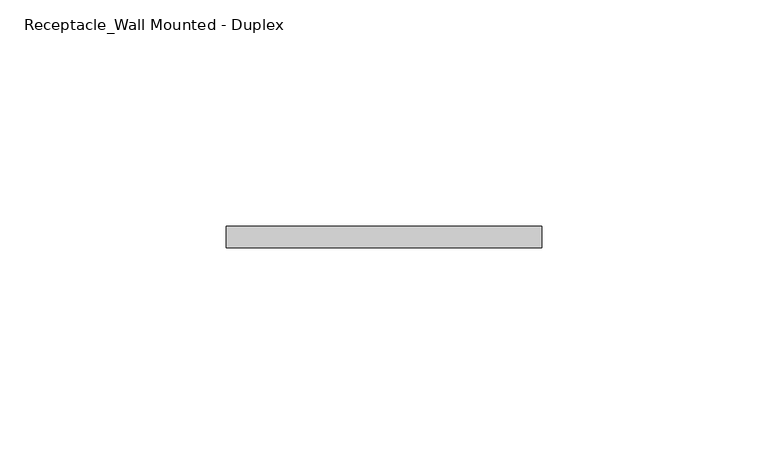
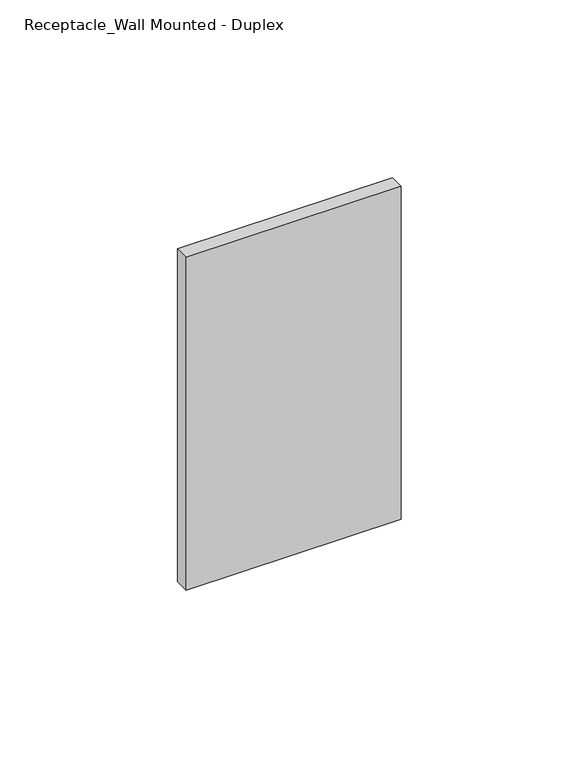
"""IFC4 building model written with IfcOpenShell, lengths in millimetres: proxy geometry, Receptacle_Wall Mounted - Duplex : Convenience."""

import ifcopenshell
import ifcopenshell.guid

model = None  # the IFC model being written
_history = None  # IfcOwnerHistory: only IFC2X3 demands one
_inside = {}  # id of a spatial element -> (the spatial element, [elements in it])
_under = {}  # id of a project, library or spatial element -> (it, [spatial elements below it])
_declared = {}  # id of a project -> (the project, [libraries it declares])
_typed = {}  # id of a type object -> (the type object, [elements of that type])
_made_of = {}  # id of a material, layer set ... -> (it, [elements and type objects made of it])


def new_model(schema):
    """Start an empty IFC model of exactly this schema.

    Asked for "IFC4X3", IfcOpenShell would pick the latest addendum, in which some entities
    have other attributes; the version numbers below select the first issue.
    IFC2X3 requires an IfcOwnerHistory on every rooted entity: one is made here for all.
    """
    global model, _history
    if schema == "IFC4X3":
        model = ifcopenshell.file(schema_version=(4, 3, 0, 0))
    else:
        model = ifcopenshell.file(schema=schema)
    _inside.clear()
    _under.clear()
    _declared.clear()
    _typed.clear()
    _made_of.clear()
    _history = None
    if model.schema == "IFC2X3":
        org = make("IfcOrganization", Name="unknown")
        user = make(
            "IfcPersonAndOrganization",
            ThePerson=make("IfcPerson", FamilyName="unknown"),
            TheOrganization=org,
        )
        app = make(
            "IfcApplication",
            ApplicationDeveloper=org,
            Version="unknown",
            ApplicationFullName="unknown",
            ApplicationIdentifier="unknown",
        )
        _history = make(
            "IfcOwnerHistory",
            OwningUser=user,
            OwningApplication=app,
            ChangeAction="ADDED",
            CreationDate=0,
        )
    return model


def make(cls, **values):
    """One entity of the class cls with the attributes given. An attribute that is None is left unset."""
    return model.create_entity(
        cls, **{name: value for name, value in values.items() if value is not None}
    )


def rooted(cls, **values):
    """An entity with a GlobalId (a new one), such as an element, a storey or a relation."""
    return make(cls, GlobalId=ifcopenshell.guid.new(), OwnerHistory=_history, **values)


def si_unit(unit_type, name, prefix=None):
    """IfcSIUnit, for example si_unit("LENGTHUNIT", "METRE", prefix="MILLI")."""
    return make("IfcSIUnit", UnitType=unit_type, Prefix=prefix, Name=name)


def assignment(units):
    """IfcUnitAssignment: the units of a project."""
    return None if units is None else make("IfcUnitAssignment", Units=units)


def point(xyz):
    """IfcCartesianPoint."""
    return None if xyz is None else make("IfcCartesianPoint", Coordinates=xyz)


def direction(xyz):
    """IfcDirection."""
    return None if xyz is None else make("IfcDirection", DirectionRatios=xyz)


def frame(location, z_axis=None, x_axis=None):
    """IfcAxis2Placement3D, a coordinate frame: its origin and axes. An axis left out is left unset."""
    return make(
        "IfcAxis2Placement3D",
        Location=point(location),
        Axis=direction(z_axis),
        RefDirection=direction(x_axis),
    )


def origin():
    """The frame at (0, 0, 0) with its axes left unset."""
    return frame((0.0, 0.0, 0.0))


def place(relative_to, where):
    """IfcLocalPlacement: puts the frame where relative to a parent placement (None: the world)."""
    return make(
        "IfcLocalPlacement", PlacementRelTo=relative_to, RelativePlacement=where
    )


def context(
    kind, dimensions, precision=None, world=None, true_north=None, identifier=None
):
    """IfcGeometricRepresentationContext, for example the 3D "Model" context."""
    return make(
        "IfcGeometricRepresentationContext",
        ContextIdentifier=identifier,
        ContextType=kind,
        CoordinateSpaceDimension=dimensions,
        Precision=precision,
        WorldCoordinateSystem=world,
        TrueNorth=true_north,
    )


def project(units=None, contexts=None):
    """IfcProject with its units and contexts."""
    return rooted(
        "IfcProject",
        Name="project",
        RepresentationContexts=contexts,
        UnitsInContext=assignment(units),
    )


def spatial(cls, under=None, at=None, **own):
    """A site, building, storey or space (cls), placed at a placement, below another one or the project."""
    s = rooted(cls, ObjectPlacement=at, **own)
    if under is not None:
        _under.setdefault(under.id(), (under, []))[1].append(s)
    return s


def polyline(points):
    """IfcPolyline through the points."""
    return make("IfcPolyline", Points=[point(p) for p in points])


def outline(outer, holes=None, kind="AREA"):
    """IfcArbitraryClosedProfileDef: a profile drawn as a closed curve; with holes, ...WithVoids."""
    if holes is None:
        return make("IfcArbitraryClosedProfileDef", ProfileType=kind, OuterCurve=outer)
    return make(
        "IfcArbitraryProfileDefWithVoids",
        ProfileType=kind,
        OuterCurve=outer,
        InnerCurves=holes,
    )


def extrude(swept, where, along, depth):
    """IfcExtrudedAreaSolid: the profile swept, set in the frame where, extruded along a direction by depth."""
    return make(
        "IfcExtrudedAreaSolid",
        SweptArea=swept,
        Position=where,
        ExtrudedDirection=direction(along),
        Depth=depth,
    )


def shape(context_of_items, identifier, shape_type, items):
    """IfcShapeRepresentation: the items that make up one representation, for example the "Body"."""
    return make(
        "IfcShapeRepresentation",
        ContextOfItems=context_of_items,
        RepresentationIdentifier=identifier,
        RepresentationType=shape_type,
        Items=items,
    )


def source(mapping_origin, context_of_items, identifier, shape_type, items):
    """IfcRepresentationMap: a shape defined once, which mapped items show again and again."""
    return make(
        "IfcRepresentationMap",
        MappingOrigin=mapping_origin,
        MappedRepresentation=shape(context_of_items, identifier, shape_type, items),
    )


def transform(
    local_origin,
    x_axis=None,
    y_axis=None,
    z_axis=None,
    scale=None,
    scale2=None,
    scale3=None,
    uniform=True,
):
    """IfcCartesianTransformationOperator3D, or its non-uniform kind. x_axis, y_axis, z_axis: its Axis1, 2, 3."""
    if uniform:
        return make(
            "IfcCartesianTransformationOperator3D",
            Axis1=direction(x_axis),
            Axis2=direction(y_axis),
            LocalOrigin=point(local_origin),
            Scale=scale,
            Axis3=direction(z_axis),
        )
    return make(
        "IfcCartesianTransformationOperator3DnonUniform",
        Axis1=direction(x_axis),
        Axis2=direction(y_axis),
        LocalOrigin=point(local_origin),
        Scale=scale,
        Axis3=direction(z_axis),
        Scale2=scale2,
        Scale3=scale3,
    )


def mapped(mapping_source, mapping_target):
    """IfcMappedItem: shows the shape of a source again, moved by a transform."""
    return make(
        "IfcMappedItem", MappingSource=mapping_source, MappingTarget=mapping_target
    )


def made_of(thing, what):
    """Note that an element or type object is made of a material, layer set ...; save() writes the relation."""
    if what is not None:
        _made_of.setdefault(what.id(), (what, []))[1].append(thing)
    return thing


def element(
    cls,
    number,
    at=None,
    inside=None,
    cuts=None,
    type_object=None,
    material=None,
    context=None,
    identifier="Body",
    shape_type=None,
    held_by="IfcProductDefinitionShape",
    body=None,
    shapes=None,
    **own,
):
    """One element of the class cls, such as IfcWall. Its Tag is "e" and its number.

    at: its placement. inside: the storey or other place that contains it. cuts: it is an
    opening in that element (IfcRelVoidsElement). A single representation is given by context,
    identifier, shape_type and body (its items); several are given by shapes. held_by: the class
    of the entity that holds the representations. save() writes the other relations.
    """
    e = rooted(cls, Tag="e%d" % number, ObjectPlacement=at, **own)
    if body is not None:
        shapes = [shape(context, identifier, shape_type, body)]
    if shapes is not None:
        e.Representation = make(held_by, Representations=shapes)
    if inside is not None:
        _inside.setdefault(inside.id(), (inside, []))[1].append(e)
    if cuts is not None:
        rooted(
            "IfcRelVoidsElement", RelatingBuildingElement=cuts, RelatedOpeningElement=e
        )
    if type_object is not None:
        _typed.setdefault(type_object.id(), (type_object, []))[1].append(e)
    return made_of(e, material)


def aggregate(whole, parts):
    """IfcRelAggregates: a whole, such as a stair, and the parts it consists of."""
    return rooted("IfcRelAggregates", RelatingObject=whole, RelatedObjects=parts)


def save(model, path):
    """Write the relations noted so far, then the file.

    IfcRelAggregates (storeys below a building ...), IfcRelContainedInSpatialStructure (elements
    in a storey), IfcRelDefinesByType, IfcRelAssociatesMaterial and IfcRelDeclares: one each for
    every whole, place, type object, material and project.
    """
    for whole, parts in _under.values():
        aggregate(whole, parts)
    for where, things in _inside.values():
        rooted(
            "IfcRelContainedInSpatialStructure",
            RelatedElements=things,
            RelatingStructure=where,
        )
    for kind, things in _typed.values():
        rooted("IfcRelDefinesByType", RelatedObjects=things, RelatingType=kind)
    for what, things in _made_of.values():
        rooted("IfcRelAssociatesMaterial", RelatedObjects=things, RelatingMaterial=what)
    for by, libraries in _declared.values():
        rooted("IfcRelDeclares", RelatingContext=by, RelatedDefinitions=libraries)
    model.write(path)


def receptacle_wall_mounted_duplex_715ea828(model_context):
    return source(origin(), model_context, "Body", "SweptSolid", [
        extrude(outline(polyline([(34.925, 47.625), (-34.925, 47.625), (-34.925, 52.3875), (34.925, 52.3875), (34.925, 47.625)])), frame((0.0, 0.0, 400.05), z_axis=(0.0, 0.0, 1.0), x_axis=(1.0, 0.0, 0.0)), (0.0, 0.0, 1.0), 114.3),
    ])


if __name__ == "__main__":
    model = new_model("IFC4")
    model_context = context("Model", 3, world=origin())
    ifc_project = project(units=[si_unit("LENGTHUNIT", "METRE", prefix="MILLI")], contexts=[model_context])
    site = spatial("IfcSite", under=ifc_project)
    building = spatial("IfcBuilding", under=site)
    placement = place(None, origin())
    receptacle_wall_mounted_duplex_shape = receptacle_wall_mounted_duplex_715ea828(model_context)
    element("IfcBuildingElementProxy", 1, Name="Receptacle_Wall Mounted - Duplex : Convenience", ObjectType="Receptacle_Wall Mounted - Duplex : Convenience", at=placement, inside=building, context=model_context, shape_type="MappedRepresentation", body=[
        mapped(receptacle_wall_mounted_duplex_shape, transform((0.0, 0.0, 0.0), x_axis=(1.0, 0.0, 0.0), y_axis=(0.0, 1.0, 0.0), z_axis=(0.0, 0.0, 1.0))),
    ])
    save(model, "model.ifc")
